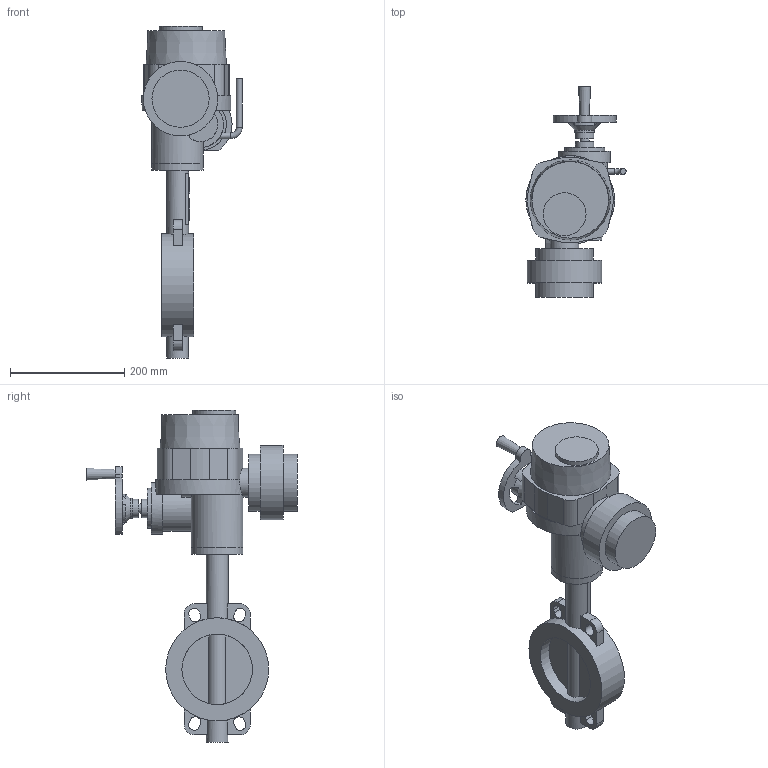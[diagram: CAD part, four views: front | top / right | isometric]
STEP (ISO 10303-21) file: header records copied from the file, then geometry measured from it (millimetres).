
FILE_DESCRIPTION(('STEP AP203'), '1');
FILE_NAME('Çàòâîð 017W.Z(÷óãóí) DN125+ÝÏ QT.A010', '', ('UNSPECIFIED'), ('UNSPECIFIED'), 'ASCON STEP Converter 1.6', 'ASCON Math Kernel', '');
FILE_SCHEMA(('CONFIG_CONTROL_DESIGN'));
Length unit declared in the file: millimetre
Bounding box: 175 x 368 x 580 mm (x, y, z)
Volume: 4557894.7 mm3; surface area: 395455.2 mm2
Topology: 1 solids, 2 shells, 742 faces, 2141 edges, 1379 vertices
Faces by surface type: cylinder 502, plane 236, cone 3, torus 1
Full cylindrical faces by diameter (mm): 6.7 x4, 10 x6, 16 x1, 18.9 x1, 20 x1, 32 x2, 35 x1, 38 x2, 50 x1, 55 x1, 70 x1, 75 x1, 90 x3, 100 x2, 123.3 x2, 130 x1, 180 x1
Entity records: 31653 total; most frequent: CARTESIAN_POINT 5289, DIRECTION 4652, ORIENTED_EDGE 4151, EDGE_CURVE 2107, AXIS2_PLACEMENT_3D 1828, VERTEX_POINT 1379, CIRCLE 1085, LINE 996
